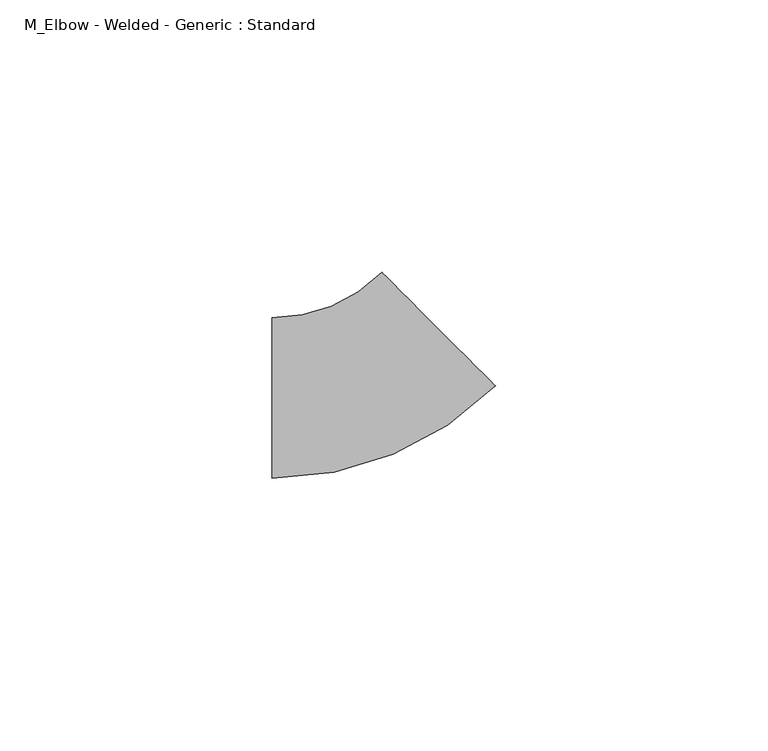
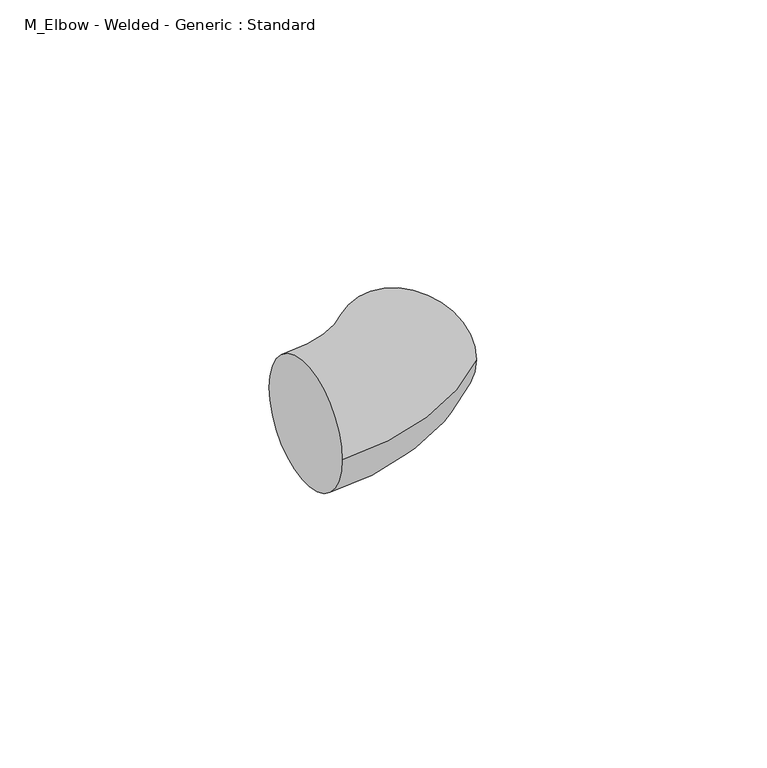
"""IFC4 building model written with IfcOpenShell, lengths in millimetres: pipe fitting geometry, M_Elbow - Welded - Generic : Standard."""

from ifc_helpers import new_model, si_unit, point, frame, origin, place, context, project, spatial, circle_curve, ellipse_curve, trimmed, source, transform, mapped, element, save
from ifc_brep_helpers import plane_surface, revolved_surface, advanced_brep


def m_elbow_welded_generic_standard_820a065a(model_context):
    return source(origin(), model_context, "Body", "AdvancedBrep", [
        advanced_brep(
        [(-17.8917187, -14.7089844, 0.0), (-17.8917187, 14.7089844, 0.0), (23.052169, 2.2506281, 0.0), (2.250438, 23.0521875, 0.0)],
        [
            (0, 1, circle_curve(frame((-17.8917187, 0.0, 0.0), z_axis=(-1.0, 0.0, 0.0), x_axis=(0.0, 1.0, 0.0)), 14.7089844)),
            (1, 0, circle_curve(frame((-17.8917187, 0.0, 0.0), z_axis=(-1.0, 0.0, 0.0), x_axis=(0.0, 1.0, 0.0)), 14.7089844)),
            (2, 3, circle_curve(frame((12.6513035, 12.6514078, 0.0), z_axis=(0.7071038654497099, 0.7071096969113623, 0.0), x_axis=(-0.7071096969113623, 0.7071038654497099, 0.0)), 14.7089844)),
            (3, 2, circle_curve(frame((12.6513035, 12.6514078, 0.0), z_axis=(0.7071038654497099, 0.7071096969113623, 0.0), x_axis=(-0.7071096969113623, 0.7071038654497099, 0.0)), 14.7089844)),
            (3, 1, circle_curve(frame((-17.8917187, 43.1941782, 0.0), z_axis=(0.0, 0.0, -1.0), x_axis=(0.0, -1.0, 0.0)), 28.4851938)),
            (0, 2, circle_curve(frame((-17.8917187, 43.1941782, 0.0), z_axis=(0.0, 0.0, 1.0), x_axis=(0.0, -1.0, 0.0)), 57.9031626)),
        ],
        [
            plane_surface(frame((-17.8917187, 0.0, 0.0), z_axis=(-1.0, 0.0, 0.0), x_axis=(0.0, 0.0, 1.0))),
            plane_surface(frame((12.6513035, 12.6514078, 0.0), z_axis=(0.70710386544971, 0.7071096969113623, 0.0), x_axis=(0.0, 0.0, 1.0))),
            revolved_surface(trimmed(ellipse_curve(frame((-17.8917187, 0.0, 0.0), z_axis=(-1.0, 0.0, 0.0), x_axis=(0.0, 1.0, 0.0)), 14.7089844, 14.7089844), [point((-17.8917187, -14.7089844, 0.0))], [point((-17.8917187, 14.7089844, 0.0))], True, "CARTESIAN"), (-17.8917187, 43.1941782, 0.0), (0.0, 0.0, 1.0)),
            revolved_surface(trimmed(ellipse_curve(frame((-17.8917187, 0.0, 0.0), z_axis=(-1.0, 0.0, 0.0), x_axis=(0.0, 1.0, 0.0)), 14.7089844, 14.7089844), [point((-17.8917187, 14.7089844, 0.0))], [point((-17.8917187, -14.7089844, 0.0))], True, "CARTESIAN"), (-17.8917187, 43.1941782, 0.0), (0.0, 0.0, 1.0)),
        ],
        [
            (0, [[1, 2]]),
            (1, [[3, 4]]),
            (2, [[5, -1, 6, -4]]),
            (3, [[-6, -2, -5, -3]]),
        ],
    ),
    ])


if __name__ == "__main__":
    model = new_model("IFC4")
    model_context = context("Model", 3, world=origin())
    ifc_project = project(units=[si_unit("LENGTHUNIT", "METRE", prefix="MILLI")], contexts=[model_context])
    site = spatial("IfcSite", under=ifc_project)
    building = spatial("IfcBuilding", under=site)
    placement = place(None, origin())
    m_elbow_welded_generic_standard_shape = m_elbow_welded_generic_standard_820a065a(model_context)
    element("IfcPipeFitting", 1, ObjectType="M_Elbow - Welded - Generic : Standard", at=placement, inside=building, context=model_context, shape_type="MappedRepresentation", body=[
        mapped(m_elbow_welded_generic_standard_shape, transform((0.0, 0.0, 0.0), x_axis=(1.0, 0.0, 0.0), y_axis=(0.0, 1.0, 0.0), z_axis=(0.0, 0.0, 1.0))),
    ])
    save(model, "model.ifc")
